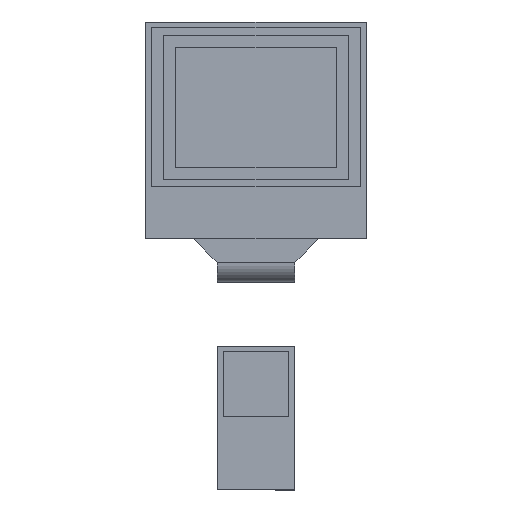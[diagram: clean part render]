
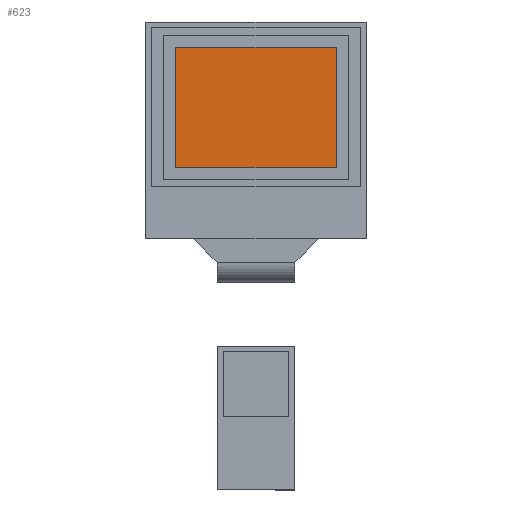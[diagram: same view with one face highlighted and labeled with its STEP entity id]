
A CAD part, top view. The second image highlights one B-rep face of the part: STEP entity #623.
In plain terms, the highlighted planar face has unit normal (0, 0, 1).
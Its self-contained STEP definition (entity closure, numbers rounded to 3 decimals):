
#4 = LINE ( 'NONE', #1200, #843 ) ;
#86 = VERTEX_POINT ( 'NONE', #964 ) ;
#311 = EDGE_LOOP ( 'NONE', ( #596, #482, #1744, #1867 ) ) ;
#408 = EDGE_CURVE ( 'NONE', #751, #86, #438, .T. ) ;
#430 = EDGE_CURVE ( 'NONE', #1770, #751, #4, .T. ) ;
#438 = LINE ( 'NONE', #1005, #1042 ) ;
#443 = VECTOR ( 'NONE', #587, 1000. ) ;
#482 = ORIENTED_EDGE ( 'NONE', *, *, #430, .F. ) ;
#559 = DIRECTION ( 'NONE',  ( 1., 0., 0. ) ) ;
#587 = DIRECTION ( 'NONE',  ( 0., -1., 0. ) ) ;
#596 = ORIENTED_EDGE ( 'NONE', *, *, #408, .F. ) ;
#623 = ADVANCED_FACE ( 'NONE', ( #931 ), #909, .T. ) ;
#751 = VERTEX_POINT ( 'NONE', #1952 ) ;
#843 = VECTOR ( 'NONE', #1048, 1000. ) ;
#874 = LINE ( 'NONE', #1036, #443 ) ;
#909 = PLANE ( 'NONE',  #1777 ) ;
#931 = FACE_OUTER_BOUND ( 'NONE', #311, .T. ) ;
#934 = VECTOR ( 'NONE', #559, 1000. ) ;
#964 = CARTESIAN_POINT ( 'NONE',  ( -6.71, 6.95, 1.26 ) ) ;
#1005 = CARTESIAN_POINT ( 'NONE',  ( -6.71, 0., 1.26 ) ) ;
#1032 = DIRECTION ( 'NONE',  ( 0., 1., 0. ) ) ;
#1036 = CARTESIAN_POINT ( 'NONE',  ( 6.71, 0., 1.26 ) ) ;
#1042 = VECTOR ( 'NONE', #1032, 1000. ) ;
#1048 = DIRECTION ( 'NONE',  ( -1., 0., 0. ) ) ;
#1053 = EDGE_CURVE ( 'NONE', #86, #1920, #1371, .T. ) ;
#1076 = DIRECTION ( 'NONE',  ( 0., 0., 1. ) ) ;
#1196 = CARTESIAN_POINT ( 'NONE',  ( 0., 6.95, 1.26 ) ) ;
#1200 = CARTESIAN_POINT ( 'NONE',  ( 0., -3.11, 1.26 ) ) ;
#1241 = CARTESIAN_POINT ( 'NONE',  ( 0., 0., 1.26 ) ) ;
#1371 = LINE ( 'NONE', #1196, #934 ) ;
#1547 = DIRECTION ( 'NONE',  ( 1., 0., 0. ) ) ;
#1728 = EDGE_CURVE ( 'NONE', #1920, #1770, #874, .T. ) ;
#1744 = ORIENTED_EDGE ( 'NONE', *, *, #1728, .F. ) ;
#1770 = VERTEX_POINT ( 'NONE', #1863 ) ;
#1777 = AXIS2_PLACEMENT_3D ( 'NONE', #1241, #1076, #1547 ) ;
#1821 = CARTESIAN_POINT ( 'NONE',  ( 6.71, 6.95, 1.26 ) ) ;
#1863 = CARTESIAN_POINT ( 'NONE',  ( 6.71, -3.11, 1.26 ) ) ;
#1867 = ORIENTED_EDGE ( 'NONE', *, *, #1053, .F. ) ;
#1920 = VERTEX_POINT ( 'NONE', #1821 ) ;
#1952 = CARTESIAN_POINT ( 'NONE',  ( -6.71, -3.11, 1.26 ) ) ;
